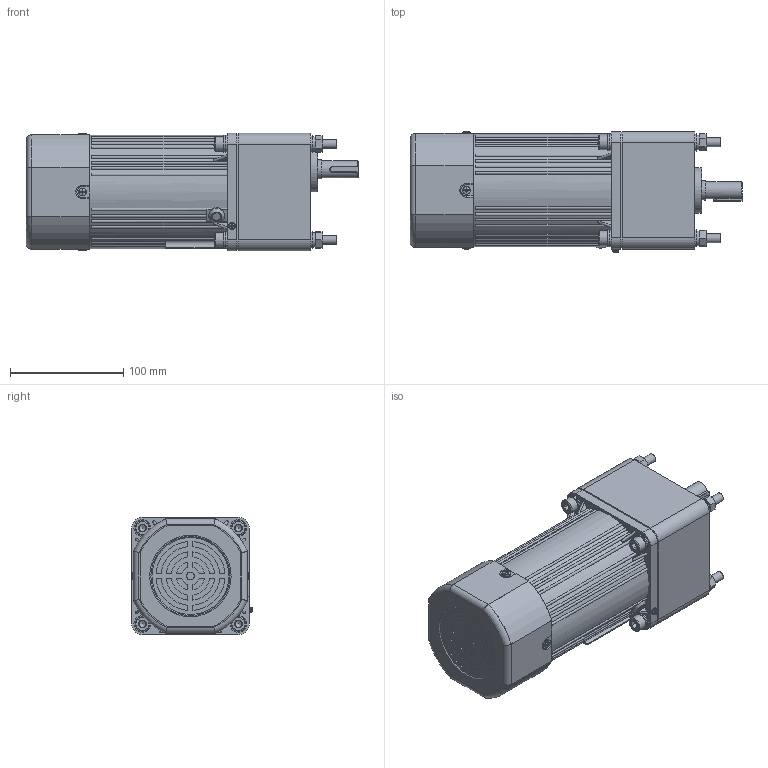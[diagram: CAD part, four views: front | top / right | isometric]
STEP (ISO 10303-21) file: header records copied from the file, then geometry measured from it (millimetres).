
FILE_DESCRIPTION(/* description */ (''),/* implementation_level */ '2;1');
FILE_NAME(/* name */ '6RK160-200CC·MF#6GU3-750K-C·15T.stp',/* time_stamp */ '2024-05-29T16:37:27+08:00',/* author */ (''),/* organization */ (''),/* preprocessor_version */ 'ST-DEVELOPER v18.102',/* originating_system */ 'SIEMENS PLM Software NX 2027',/* authorisation */ '');
FILE_SCHEMA (('AP203_CONFIGURATION_CONTROLLED_3D_DESIGN_OF_MECHANICAL_PARTS_AND_ASSEMBLIES_MIM_LF { 1 0 10303 403 2 1 2}'));
Products named in the file (1): A0_objects
Bounding box: 293.5 x 106.83 x 104.06 mm (x, y, z)
Volume: 2528260.4 mm3; surface area: 377247.8 mm2
Topology: 32 solids, 32 shells, 1687 faces, 4374 edges, 2836 vertices
Faces by surface type: plane 678, cylinder 438, bspline 313, cone 167, torus 63, sphere 28
Full cylindrical faces by diameter (mm): 2.6 x2, 2.7 x1, 3 x3, 3.2 x2, 3.3 x4, 3.5 x4, 3.6 x4, 4 x5, 5.1 x2, 6 x2, 6.8 x8, 6.985 x4, 7 x2, 7.5 x2, 7.76 x4, 8.4 x8, 8.5 x4, 9 x13, 9.3 x1, 13 x5, 14 x9, 15 x10, 15.5 x2, 17 x1, 17.3 x1, 19 x2, 27 x1, 28 x1, 30 x3, 35 x1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
Entity records: 54794 total; most frequent: CARTESIAN_POINT 14882, ORIENTED_EDGE 8044, DIRECTION 7068, EDGE_CURVE 4022, AXIS2_PLACEMENT_3D 2849, VERTEX_POINT 2723, EDGE_LOOP 2122, ADVANCED_FACE 1687
